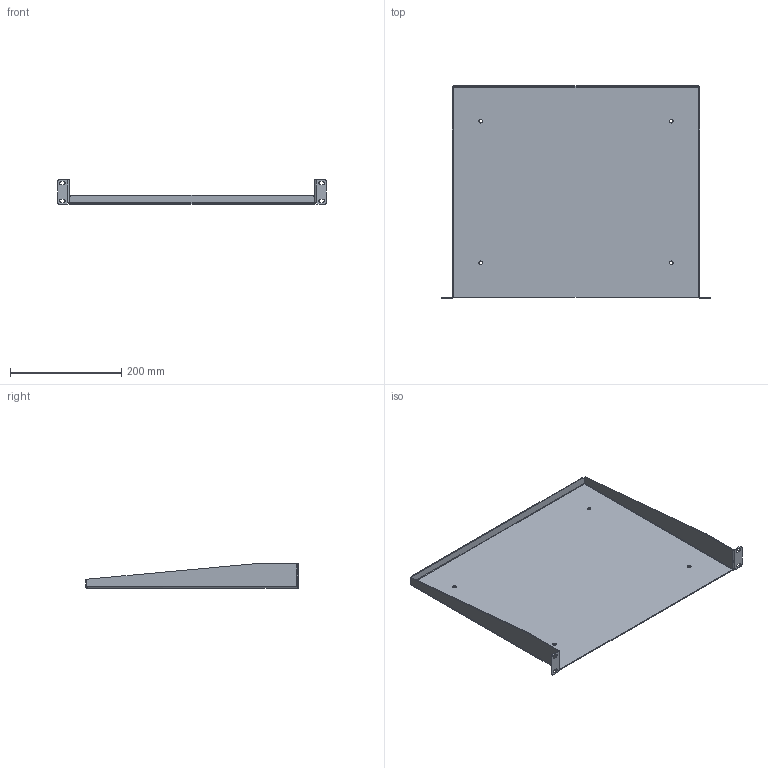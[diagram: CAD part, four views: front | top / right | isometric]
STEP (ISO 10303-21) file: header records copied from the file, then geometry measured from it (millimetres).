
FILE_DESCRIPTION( ( 'Unknown' ), '1' );
FILE_NAME( 'Q:/ACCESSORIES/SHELVES/RK _ RMA/WEB DRAWINGS/STEP/RASU190115.stp', 'Unknown', ( 'Unknown' ), ( 'Unknown' ), 'PSStep 10.1', 'Unknown', ' ' );
FILE_SCHEMA( ( 'AUTOMOTIVE_DESIGN { 1 0 10303 214 1 1 1 1 }' ) );
Length unit declared in the file: millimetre
Products named in the file (1): 1
Bounding box: 482.75 x 381 x 43.64 mm (x, y, z)
Volume: 362938.6 mm3; surface area: 400681.3 mm2
Topology: 1 solids, 1 shells, 84 faces, 230 edges, 148 vertices
Faces by surface type: plane 48, cylinder 32, bspline 4
Full cylindrical faces by diameter (mm): 6.35 x4
Entity records: 2885 total; most frequent: CARTESIAN_POINT 747, ORIENTED_EDGE 444, DIRECTION 428, EDGE_CURVE 222, AXIS2_PLACEMENT_3D 145, VERTEX_POINT 144, LINE 138, VECTOR 138
